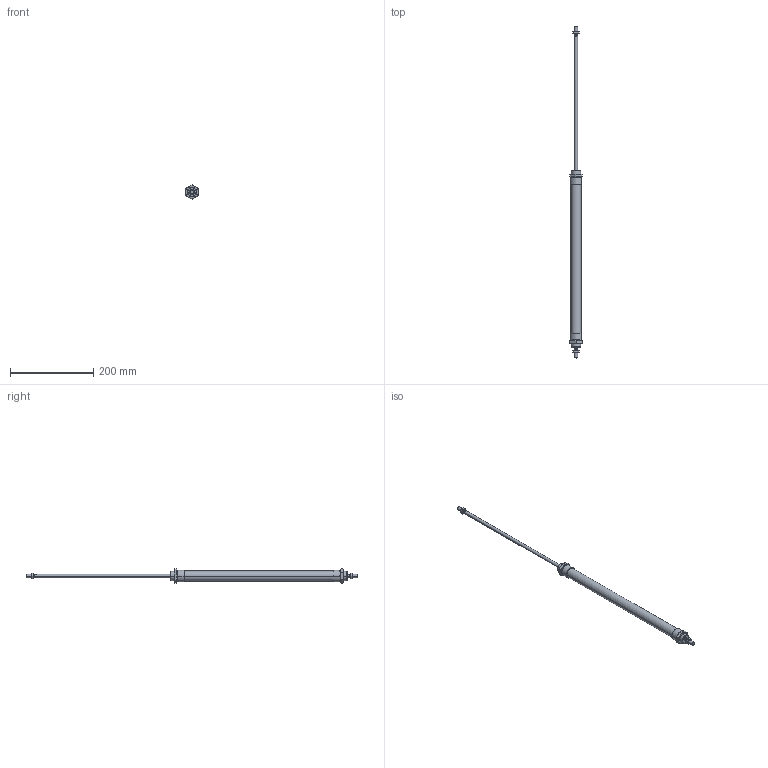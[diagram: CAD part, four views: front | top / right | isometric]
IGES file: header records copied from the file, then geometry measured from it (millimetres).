
Global section: file name: No Iges File Name specified; native system: AutoDesk Inventor R6.0; preprocessor: AutoDesk Inventor Iges Exporter R6.0; author: No Author specified; organization: No Organization specified; date: 20030403.072359; units: millimetre
Bounding box: 30 x 796 x 34.64 mm (x, y, z)
Volume: 218269 mm3; surface area: 69439 mm2
Topology: 6 solids, 6 shells, 186 faces, 414 edges, 244 vertices
Faces by surface type: cone 68, plane 60, bspline 32, cylinder 20, revolution 6
